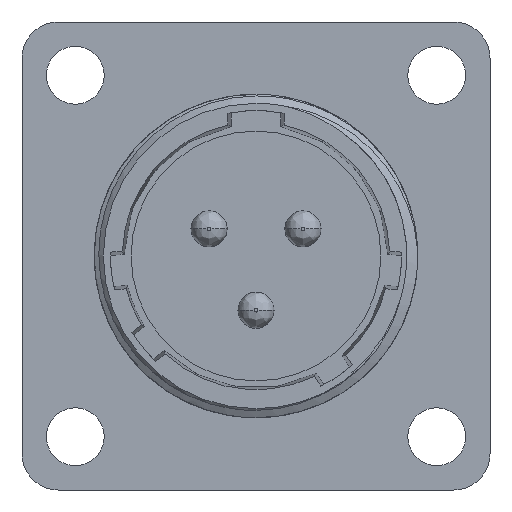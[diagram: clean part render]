
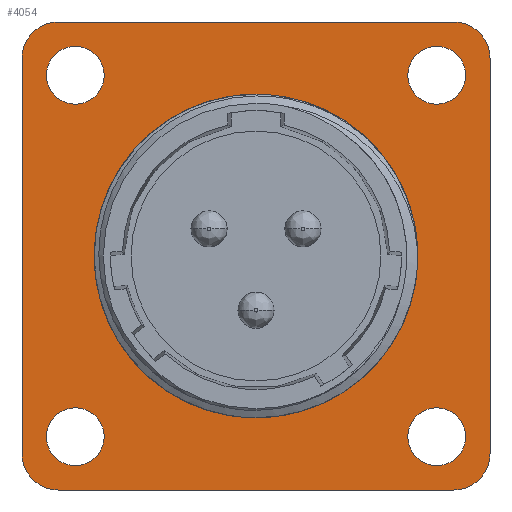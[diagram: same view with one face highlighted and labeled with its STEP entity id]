
A CAD part, front view. The second image highlights one B-rep face of the part: STEP entity #4054.
In plain terms, the highlighted planar face has unit normal (0, -1, 0).
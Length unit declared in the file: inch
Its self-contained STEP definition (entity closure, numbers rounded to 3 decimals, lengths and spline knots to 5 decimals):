
#173=CARTESIAN_POINT('',(-10.95,-2.6,-10.95));
#174=DIRECTION('',(0.,1.,0.));
#175=DIRECTION('',(0.,0.,-1.));
#176=AXIS2_PLACEMENT_3D('',#173,#174,#175);
#178=DIRECTION('',(0.,0.,1.));
#179=VECTOR('',#178,21.9);
#180=CARTESIAN_POINT('',(-12.95,-2.6,-10.95));
#181=LINE('',#180,#179);
#182=CARTESIAN_POINT('',(-10.95,-2.6,10.95));
#183=DIRECTION('',(0.,1.,0.));
#184=DIRECTION('',(-1.,0.,0.));
#185=AXIS2_PLACEMENT_3D('',#182,#183,#184);
#187=DIRECTION('',(1.,0.,0.));
#188=VECTOR('',#187,21.9);
#189=CARTESIAN_POINT('',(-10.95,-2.6,12.95));
#190=LINE('',#189,#188);
#191=CARTESIAN_POINT('',(10.95,-2.6,10.95));
#192=DIRECTION('',(0.,1.,0.));
#193=DIRECTION('',(0.,0.,1.));
#194=AXIS2_PLACEMENT_3D('',#191,#192,#193);
#196=DIRECTION('',(0.,0.,-1.));
#197=VECTOR('',#196,21.9);
#198=CARTESIAN_POINT('',(12.95,-2.6,10.95));
#199=LINE('',#198,#197);
#200=CARTESIAN_POINT('',(10.95,-2.6,-10.95));
#201=DIRECTION('',(0.,1.,0.));
#202=DIRECTION('',(1.,0.,0.));
#203=AXIS2_PLACEMENT_3D('',#200,#201,#202);
#205=DIRECTION('',(-1.,0.,0.));
#206=VECTOR('',#205,21.9);
#207=CARTESIAN_POINT('',(10.95,-2.6,-12.95));
#208=LINE('',#207,#206);
#209=CARTESIAN_POINT('',(0.,-2.6,0.));
#210=DIRECTION('',(0.,-1.,0.));
#211=DIRECTION('',(0.,0.,1.));
#212=AXIS2_PLACEMENT_3D('',#209,#210,#211);
#214=CARTESIAN_POINT('',(0.,-2.6,0.));
#215=DIRECTION('',(0.,-1.,0.));
#216=DIRECTION('',(0.,0.,-1.));
#217=AXIS2_PLACEMENT_3D('',#214,#215,#216);
#219=CARTESIAN_POINT('',(10.,-2.6,10.));
#220=DIRECTION('',(0.,-1.,0.));
#221=DIRECTION('',(1.,0.,0.));
#222=AXIS2_PLACEMENT_3D('',#219,#220,#221);
#224=CARTESIAN_POINT('',(10.,-2.6,10.));
#225=DIRECTION('',(0.,-1.,0.));
#226=DIRECTION('',(-1.,0.,0.));
#227=AXIS2_PLACEMENT_3D('',#224,#225,#226);
#229=CARTESIAN_POINT('',(-10.,-2.6,10.));
#230=DIRECTION('',(0.,-1.,0.));
#231=DIRECTION('',(1.,0.,0.));
#232=AXIS2_PLACEMENT_3D('',#229,#230,#231);
#234=CARTESIAN_POINT('',(-10.,-2.6,10.));
#235=DIRECTION('',(0.,-1.,0.));
#236=DIRECTION('',(-1.,0.,0.));
#237=AXIS2_PLACEMENT_3D('',#234,#235,#236);
#239=CARTESIAN_POINT('',(10.,-2.6,-10.));
#240=DIRECTION('',(0.,-1.,0.));
#241=DIRECTION('',(1.,0.,0.));
#242=AXIS2_PLACEMENT_3D('',#239,#240,#241);
#244=CARTESIAN_POINT('',(10.,-2.6,-10.));
#245=DIRECTION('',(0.,-1.,0.));
#246=DIRECTION('',(-1.,0.,0.));
#247=AXIS2_PLACEMENT_3D('',#244,#245,#246);
#249=CARTESIAN_POINT('',(-10.,-2.6,-10.));
#250=DIRECTION('',(0.,-1.,0.));
#251=DIRECTION('',(1.,0.,0.));
#252=AXIS2_PLACEMENT_3D('',#249,#250,#251);
#254=CARTESIAN_POINT('',(-10.,-2.6,-10.));
#255=DIRECTION('',(0.,-1.,0.));
#256=DIRECTION('',(-1.,0.,0.));
#257=AXIS2_PLACEMENT_3D('',#254,#255,#256);
#3458=CARTESIAN_POINT('',(-12.95,-2.6,-10.95));
#3459=VERTEX_POINT('',#3458);
#3460=CARTESIAN_POINT('',(-10.95,-2.6,-12.95));
#3461=VERTEX_POINT('',#3460);
#3462=CARTESIAN_POINT('',(-12.95,-2.6,10.95));
#3463=VERTEX_POINT('',#3462);
#3464=CARTESIAN_POINT('',(-10.95,-2.6,12.95));
#3465=VERTEX_POINT('',#3464);
#3466=CARTESIAN_POINT('',(10.95,-2.6,12.95));
#3467=VERTEX_POINT('',#3466);
#3468=CARTESIAN_POINT('',(12.95,-2.6,10.95));
#3469=VERTEX_POINT('',#3468);
#3470=CARTESIAN_POINT('',(12.95,-2.6,-10.95));
#3471=VERTEX_POINT('',#3470);
#3472=CARTESIAN_POINT('',(10.95,-2.6,-12.95));
#3473=VERTEX_POINT('',#3472);
#3474=CARTESIAN_POINT('',(0.,-2.6,8.95));
#3475=CARTESIAN_POINT('',(0.,-2.6,-8.95));
#3476=VERTEX_POINT('',#3474);
#3477=VERTEX_POINT('',#3475);
#3478=CARTESIAN_POINT('',(11.6,-2.6,10.));
#3479=CARTESIAN_POINT('',(8.4,-2.6,10.));
#3480=VERTEX_POINT('',#3478);
#3481=VERTEX_POINT('',#3479);
#3482=CARTESIAN_POINT('',(-8.4,-2.6,10.));
#3483=CARTESIAN_POINT('',(-11.6,-2.6,10.));
#3484=VERTEX_POINT('',#3482);
#3485=VERTEX_POINT('',#3483);
#3486=CARTESIAN_POINT('',(11.6,-2.6,-10.));
#3487=CARTESIAN_POINT('',(8.4,-2.6,-10.));
#3488=VERTEX_POINT('',#3486);
#3489=VERTEX_POINT('',#3487);
#3490=CARTESIAN_POINT('',(-8.4,-2.6,-10.));
#3491=CARTESIAN_POINT('',(-11.6,-2.6,-10.));
#3492=VERTEX_POINT('',#3490);
#3493=VERTEX_POINT('',#3491);
#4009=CARTESIAN_POINT('',(0.,-2.6,0.));
#4010=DIRECTION('',(0.,-1.,0.));
#4011=DIRECTION('',(0.,0.,1.));
#4012=AXIS2_PLACEMENT_3D('',#4009,#4010,#4011);
#4013=PLANE('',#4012);
#4014=ORIENTED_EDGE('',*,*,#3905,.T.);
#4015=ORIENTED_EDGE('',*,*,#3921,.T.);
#4016=ORIENTED_EDGE('',*,*,#3934,.T.);
#4017=ORIENTED_EDGE('',*,*,#3949,.T.);
#4018=ORIENTED_EDGE('',*,*,#3962,.T.);
#4019=ORIENTED_EDGE('',*,*,#3975,.T.);
#4020=ORIENTED_EDGE('',*,*,#3990,.T.);
#4021=ORIENTED_EDGE('',*,*,#4002,.T.);
#4022=EDGE_LOOP('',(#4014,#4015,#4016,#4017,#4018,#4019,#4020,#4021));
#4023=FACE_OUTER_BOUND('',#4022,.F.);
#4025=ORIENTED_EDGE('',*,*,#4024,.T.);
#4027=ORIENTED_EDGE('',*,*,#4026,.T.);
#4028=EDGE_LOOP('',(#4025,#4027));
#4029=FACE_BOUND('',#4028,.F.);
#4031=ORIENTED_EDGE('',*,*,#4030,.T.);
#4033=ORIENTED_EDGE('',*,*,#4032,.T.);
#4034=EDGE_LOOP('',(#4031,#4033));
#4035=FACE_BOUND('',#4034,.F.);
#4037=ORIENTED_EDGE('',*,*,#4036,.T.);
#4039=ORIENTED_EDGE('',*,*,#4038,.T.);
#4040=EDGE_LOOP('',(#4037,#4039));
#4041=FACE_BOUND('',#4040,.F.);
#4043=ORIENTED_EDGE('',*,*,#4042,.T.);
#4045=ORIENTED_EDGE('',*,*,#4044,.T.);
#4046=EDGE_LOOP('',(#4043,#4045));
#4047=FACE_BOUND('',#4046,.F.);
#4049=ORIENTED_EDGE('',*,*,#4048,.T.);
#4051=ORIENTED_EDGE('',*,*,#4050,.T.);
#4052=EDGE_LOOP('',(#4049,#4051));
#4053=FACE_BOUND('',#4052,.F.);
#4054=ADVANCED_FACE('',(#4023,#4029,#4035,#4041,#4047,#4053),#4013,.T.);
#177=CIRCLE('',#176,2.);
#186=CIRCLE('',#185,2.);
#195=CIRCLE('',#194,2.);
#204=CIRCLE('',#203,2.);
#213=CIRCLE('',#212,8.95);
#218=CIRCLE('',#217,8.95);
#223=CIRCLE('',#222,1.6);
#228=CIRCLE('',#227,1.6);
#233=CIRCLE('',#232,1.6);
#238=CIRCLE('',#237,1.6);
#243=CIRCLE('',#242,1.6);
#248=CIRCLE('',#247,1.6);
#253=CIRCLE('',#252,1.6);
#258=CIRCLE('',#257,1.6);
#3905=EDGE_CURVE('',#3461,#3459,#177,.T.);
#3921=EDGE_CURVE('',#3459,#3463,#181,.T.);
#3934=EDGE_CURVE('',#3463,#3465,#186,.T.);
#3949=EDGE_CURVE('',#3465,#3467,#190,.T.);
#3962=EDGE_CURVE('',#3467,#3469,#195,.T.);
#3975=EDGE_CURVE('',#3469,#3471,#199,.T.);
#3990=EDGE_CURVE('',#3471,#3473,#204,.T.);
#4002=EDGE_CURVE('',#3473,#3461,#208,.T.);
#4024=EDGE_CURVE('',#3476,#3477,#213,.T.);
#4026=EDGE_CURVE('',#3477,#3476,#218,.T.);
#4030=EDGE_CURVE('',#3480,#3481,#223,.T.);
#4032=EDGE_CURVE('',#3481,#3480,#228,.T.);
#4036=EDGE_CURVE('',#3484,#3485,#233,.T.);
#4038=EDGE_CURVE('',#3485,#3484,#238,.T.);
#4042=EDGE_CURVE('',#3488,#3489,#243,.T.);
#4044=EDGE_CURVE('',#3489,#3488,#248,.T.);
#4048=EDGE_CURVE('',#3492,#3493,#253,.T.);
#4050=EDGE_CURVE('',#3493,#3492,#258,.T.);
